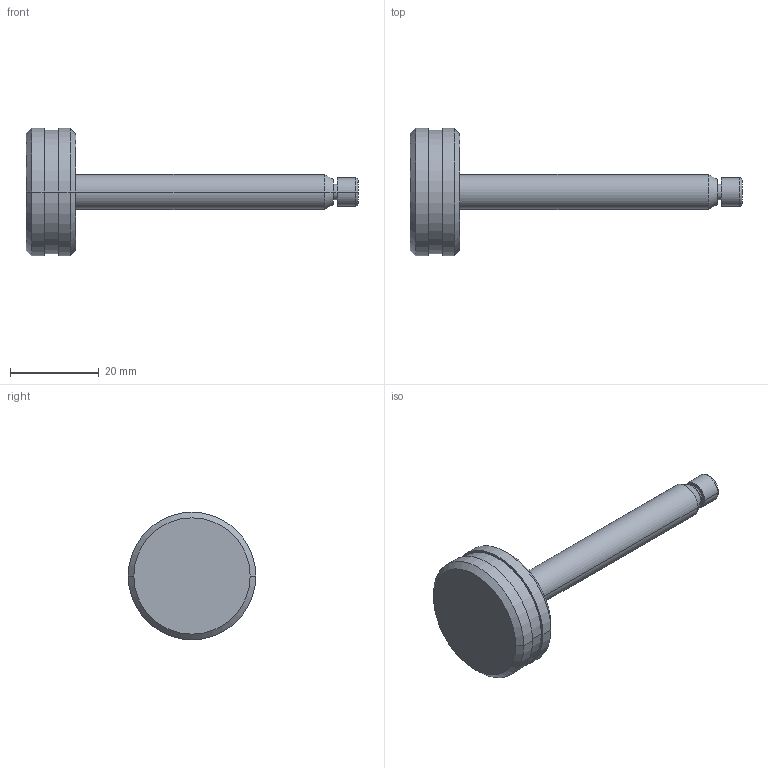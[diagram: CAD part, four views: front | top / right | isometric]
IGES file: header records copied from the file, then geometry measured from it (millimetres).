
Start section:  PTC IGES file: sch336-part.igs
Global section: file name: sch336-part.igs; native system: Pro/ENGINEER by Parametric Technology Corporation; preprocessor: 2002350; author: chant; organization: Unknown; date: 070529.155149; units: inch
Bounding box: 74.65 x 28.7 x 28.7 mm (x, y, z)
Surface area: 3898.6 mm2 (no closed solid volume)
Topology: 0 solids, 0 shells, 33 faces, 172 edges, 194 vertices
Faces by surface type: revolution 26, bspline 7
